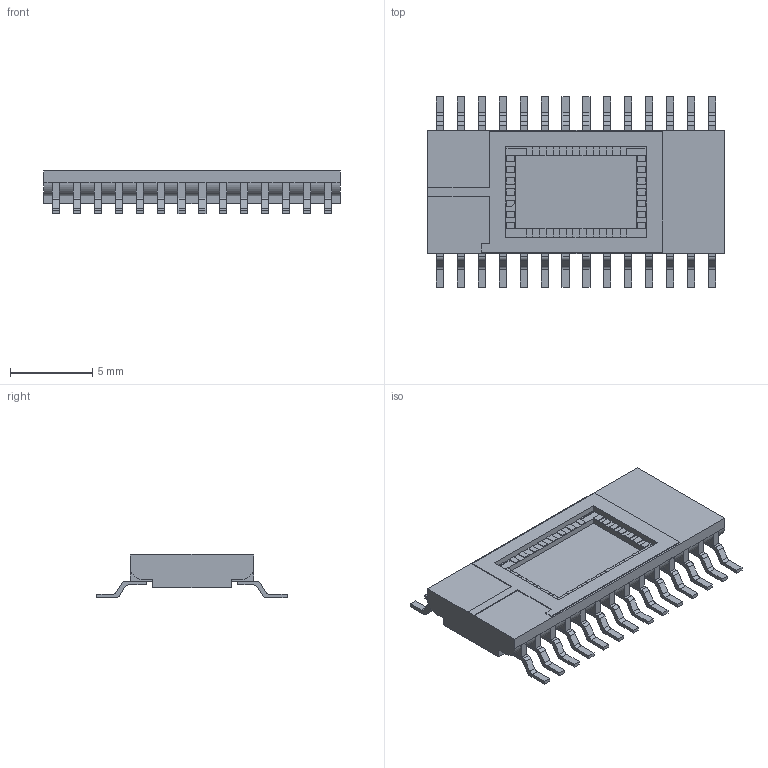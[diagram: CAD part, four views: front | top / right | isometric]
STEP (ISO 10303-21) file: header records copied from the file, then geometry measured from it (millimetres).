
FILE_DESCRIPTION (( 'STEP AP214' ), '1' );
FILE_NAME ('ceramic_SOIC_28.STEP', '2022-05-18T03:33:27', ( 'oit' ), ( '' ), 'SwSTEP 2.0', 'SolidWorks 2021', '' );
FILE_SCHEMA (( 'AUTOMOTIVE_DESIGN' ));
Length unit declared in the file: millimetre
Products named in the file (1): ceramic_SOIC_28
Bounding box: 18 x 11.55 x 2.65 mm (x, y, z)
Volume: 227.4 mm3; surface area: 531.9 mm2
Topology: 29 solids, 29 shells, 773 faces, 1999 edges, 1314 vertices
Faces by surface type: plane 631, cylinder 142
Entity records: 32058 total; most frequent: CARTESIAN_POINT 4087, ORIENTED_EDGE 3998, DIRECTION 3831, EDGE_CURVE 1999, LINE 1715, VECTOR 1715, VERTEX_POINT 1314, AXIS2_PLACEMENT_3D 1058
